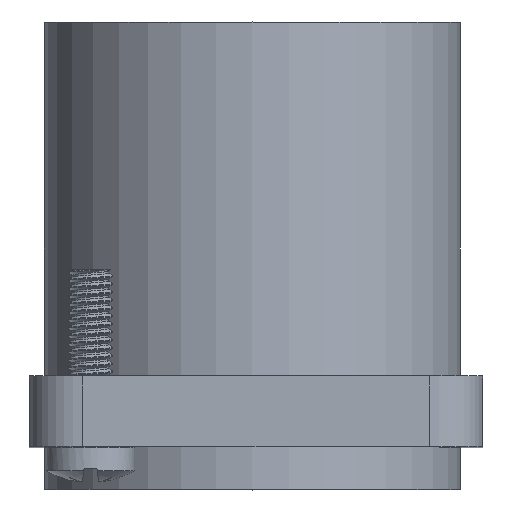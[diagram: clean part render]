
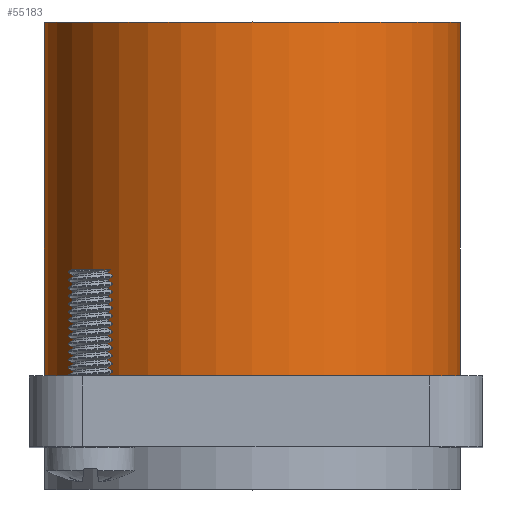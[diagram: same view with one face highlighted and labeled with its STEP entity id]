
A CAD part, top view. The second image highlights one B-rep face of the part: STEP entity #55183.
In plain terms, the highlighted cylindrical face has radius 11.75 mm (diameter 23.5 mm), a full revolution.
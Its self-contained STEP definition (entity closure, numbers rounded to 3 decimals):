
#55183 = ADVANCED_FACE('',(#55184),#55211,.T.);
#55184 = FACE_BOUND('',#55185,.F.);
#55185 = EDGE_LOOP('',(#55186,#55195,#55203,#55210));
#55186 = ORIENTED_EDGE('',*,*,#55187,.F.);
#55187 = EDGE_CURVE('',#55188,#55188,#55190,.T.);
#55188 = VERTEX_POINT('',#55189);
#55189 = CARTESIAN_POINT('',(11.75,0.,0.));
#55190 = CIRCLE('',#55191,11.75);
#55191 = AXIS2_PLACEMENT_3D('',#55192,#55193,#55194);
#55192 = CARTESIAN_POINT('',(0.,0.,0.));
#55193 = DIRECTION('',(0.,-1.,0.));
#55194 = DIRECTION('',(1.,0.,0.));
#55195 = ORIENTED_EDGE('',*,*,#55196,.T.);
#55196 = EDGE_CURVE('',#55188,#55197,#55199,.T.);
#55197 = VERTEX_POINT('',#55198);
#55198 = CARTESIAN_POINT('',(11.75,-20.,0.));
#55199 = LINE('',#55200,#55201);
#55200 = CARTESIAN_POINT('',(11.75,0.,0.));
#55201 = VECTOR('',#55202,1.);
#55202 = DIRECTION('',(0.,-1.,0.));
#55203 = ORIENTED_EDGE('',*,*,#55204,.F.);
#55204 = EDGE_CURVE('',#55197,#55197,#55205,.T.);
#55205 = CIRCLE('',#55206,11.75);
#55206 = AXIS2_PLACEMENT_3D('',#55207,#55208,#55209);
#55207 = CARTESIAN_POINT('',(0.,-20.,0.));
#55208 = DIRECTION('',(-0.,1.,0.));
#55209 = DIRECTION('',(1.,0.,0.));
#55210 = ORIENTED_EDGE('',*,*,#55196,.F.);
#55211 = CYLINDRICAL_SURFACE('',#55212,11.75);
#55212 = AXIS2_PLACEMENT_3D('',#55213,#55214,#55215);
#55213 = CARTESIAN_POINT('',(0.,0.,0.));
#55214 = DIRECTION('',(-0.,1.,-0.));
#55215 = DIRECTION('',(1.,0.,0.));
